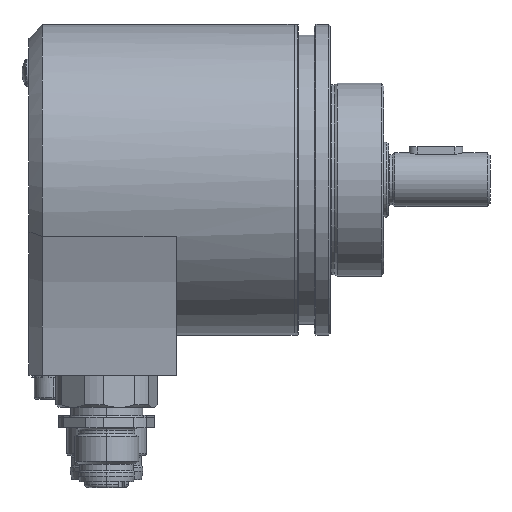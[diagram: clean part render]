
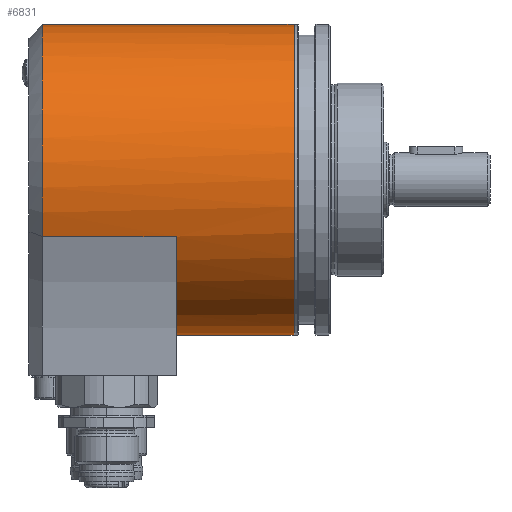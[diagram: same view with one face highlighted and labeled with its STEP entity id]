
A CAD part, left-side view. The second image highlights one B-rep face of the part: STEP entity #6831.
In plain terms, the highlighted cylindrical face has radius 29 mm (diameter 58 mm), a partial arc.
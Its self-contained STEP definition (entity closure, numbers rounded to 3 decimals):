
#552 = DIRECTION ( 'NONE',  ( 0., 1., 0. ) ) ;
#735 = ORIENTED_EDGE ( 'NONE', *, *, #5999, .T. ) ;
#1235 = EDGE_LOOP ( 'NONE', ( #6153, #735, #2424, #7331, #2770, #10336 ) ) ;
#1334 = CARTESIAN_POINT ( 'NONE',  ( 0., 36.6, -29. ) ) ;
#1407 = EDGE_CURVE ( 'NONE', #5054, #9972, #10295, .T. ) ;
#1564 = DIRECTION ( 'NONE',  ( 0., 1., 0. ) ) ;
#1729 = EDGE_CURVE ( 'NONE', #3196, #5054, #6305, .T. ) ;
#2150 = VECTOR ( 'NONE', #4550, 1000. ) ;
#2166 = VERTEX_POINT ( 'NONE', #10576 ) ;
#2264 = CARTESIAN_POINT ( 'NONE',  ( -26.985, 86.1, -10.621 ) ) ;
#2424 = ORIENTED_EDGE ( 'NONE', *, *, #1729, .T. ) ;
#2665 = CARTESIAN_POINT ( 'NONE',  ( 0., 83.6, 0. ) ) ;
#2720 = CIRCLE ( 'NONE', #5293, 29. ) ;
#2770 = ORIENTED_EDGE ( 'NONE', *, *, #5692, .T. ) ;
#3041 = CARTESIAN_POINT ( 'NONE',  ( 0., 36.6, 0. ) ) ;
#3135 = CARTESIAN_POINT ( 'NONE',  ( 0., 0., 29. ) ) ;
#3196 = VERTEX_POINT ( 'NONE', #5188 ) ;
#3311 = DIRECTION ( 'NONE',  ( 0., 1., 0. ) ) ;
#3728 = VERTEX_POINT ( 'NONE', #1334 ) ;
#4550 = DIRECTION ( 'NONE',  ( 0., 1., 0. ) ) ;
#4853 = DIRECTION ( 'NONE',  ( 0., 0., 1. ) ) ;
#5054 = VERTEX_POINT ( 'NONE', #10390 ) ;
#5188 = CARTESIAN_POINT ( 'NONE',  ( 0., 36.6, 29. ) ) ;
#5293 = AXIS2_PLACEMENT_3D ( 'NONE', #7509, #3311, #8099 ) ;
#5640 = AXIS2_PLACEMENT_3D ( 'NONE', #6614, #1564, #4853 ) ;
#5654 = AXIS2_PLACEMENT_3D ( 'NONE', #2665, #5842, #7508 ) ;
#5692 = EDGE_CURVE ( 'NONE', #9972, #2166, #8923, .T. ) ;
#5842 = DIRECTION ( 'NONE',  ( 0., -1., 0. ) ) ;
#5999 = EDGE_CURVE ( 'NONE', #3728, #3196, #10633, .T. ) ;
#6083 = EDGE_CURVE ( 'NONE', #8468, #2166, #2720, .T. ) ;
#6151 = CARTESIAN_POINT ( 'NONE',  ( 0., 58.6, -29. ) ) ;
#6153 = ORIENTED_EDGE ( 'NONE', *, *, #8531, .F. ) ;
#6257 = CARTESIAN_POINT ( 'NONE',  ( 0., 0., -29. ) ) ;
#6281 = VECTOR ( 'NONE', #6501, 1000. ) ;
#6305 = LINE ( 'NONE', #3135, #10274 ) ;
#6310 = LINE ( 'NONE', #6257, #2150 ) ;
#6321 = DIRECTION ( 'NONE',  ( 0., 1., 0. ) ) ;
#6375 = DIRECTION ( 'NONE',  ( 0., 0., 1. ) ) ;
#6501 = DIRECTION ( 'NONE',  ( 0., -1., 0. ) ) ;
#6614 = CARTESIAN_POINT ( 'NONE',  ( 0., 0., 0. ) ) ;
#6831 = ADVANCED_FACE ( 'CYL_33', ( #9674 ), #8925, .T. ) ;
#7331 = ORIENTED_EDGE ( 'NONE', *, *, #1407, .T. ) ;
#7508 = DIRECTION ( 'NONE',  ( 0., 0., -1. ) ) ;
#7509 = CARTESIAN_POINT ( 'NONE',  ( 0., 58.6, 0. ) ) ;
#8099 = DIRECTION ( 'NONE',  ( 0., 0., 1. ) ) ;
#8468 = VERTEX_POINT ( 'NONE', #6151 ) ;
#8531 = EDGE_CURVE ( 'NONE', #3728, #8468, #6310, .T. ) ;
#8923 = LINE ( 'NONE', #2264, #6281 ) ;
#8925 = CYLINDRICAL_SURFACE ( 'NONE', #5640, 29. ) ;
#9674 = FACE_OUTER_BOUND ( 'NONE', #1235, .T. ) ;
#9972 = VERTEX_POINT ( 'NONE', #10129 ) ;
#10129 = CARTESIAN_POINT ( 'NONE',  ( -26.985, 83.6, -10.621 ) ) ;
#10274 = VECTOR ( 'NONE', #552, 1000. ) ;
#10295 = CIRCLE ( 'NONE', #5654, 29. ) ;
#10336 = ORIENTED_EDGE ( 'NONE', *, *, #6083, .F. ) ;
#10390 = CARTESIAN_POINT ( 'NONE',  ( 0., 83.6, 29. ) ) ;
#10441 = AXIS2_PLACEMENT_3D ( 'NONE', #3041, #6321, #6375 ) ;
#10576 = CARTESIAN_POINT ( 'NONE',  ( -26.985, 58.6, -10.621 ) ) ;
#10633 = CIRCLE ( 'NONE', #10441, 29. ) ;
